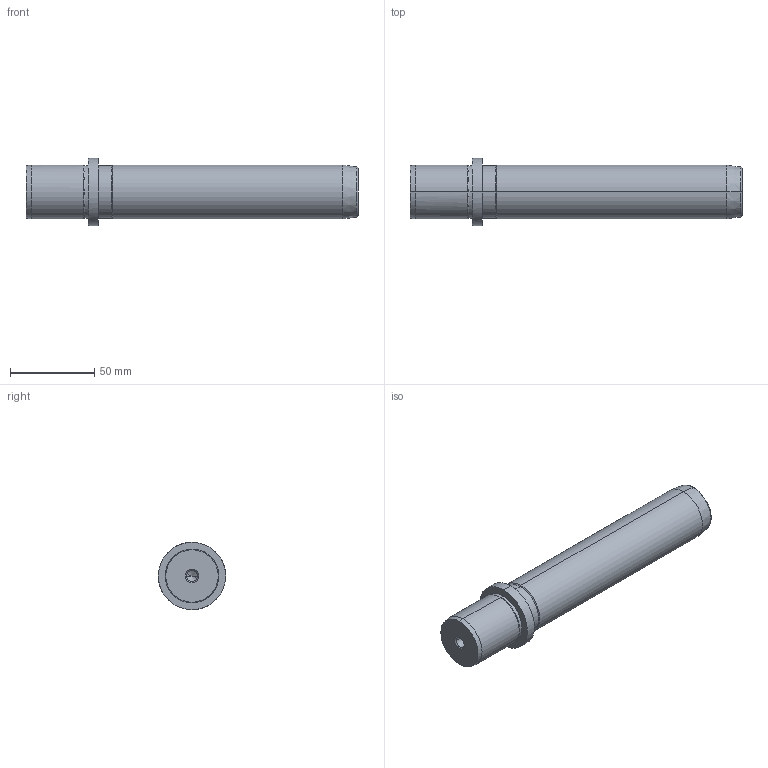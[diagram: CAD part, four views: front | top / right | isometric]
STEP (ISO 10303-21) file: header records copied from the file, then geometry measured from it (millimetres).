
FILE_DESCRIPTION(('CATIA V5 STEP Exchange'),'2;1');
FILE_NAME('C:\Users\Utente\Desktop\IO LAVORO\3D X SITO CF\X SITO\719\719-32x160.stp','2021-01-03T15:51:19+00:00',('none'),('none'),'CATIA Version 5 Release 20 GA (IN-10)','CATIA V5 STEP AP203','none');
FILE_SCHEMA(('CONFIG_CONTROL_DESIGN'));
Length unit declared in the file: millimetre
Products named in the file (1): 719-32x160
Bounding box: 197 x 40 x 40 mm (x, y, z)
Volume: 158267.9 mm3; surface area: 23344.5 mm2
Topology: 1 solids, 1 shells, 36 faces, 100 edges, 66 vertices
Faces by surface type: cone 16, cylinder 14, plane 4, torus 2
Entity records: 1270 total; most frequent: CARTESIAN_POINT 339, ORIENTED_EDGE 192, DIRECTION 158, EDGE_CURVE 96, AXIS2_PLACEMENT_3D 93, VERTEX_POINT 66, CIRCLE 56, EDGE_LOOP 40
